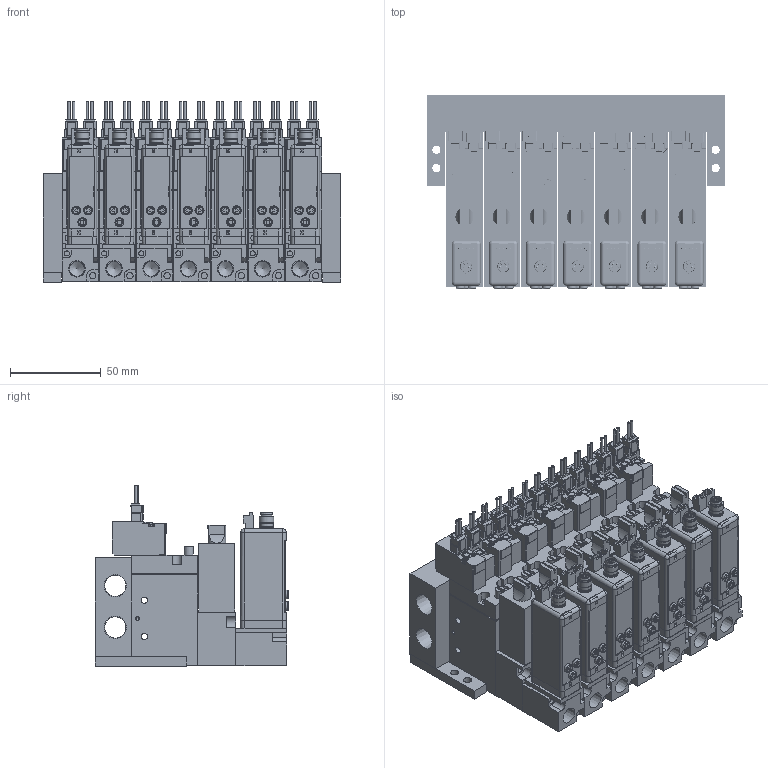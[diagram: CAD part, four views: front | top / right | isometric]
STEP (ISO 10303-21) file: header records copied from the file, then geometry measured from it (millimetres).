
FILE_DESCRIPTION(('STEP AP203'),'1');
FILE_NAME('BMPV32M2N20225AL707.stp','2025-06-16T08:57:32',(' '),(' '),'Spatial InterOp 3D',' ',' ');
FILE_SCHEMA(('CONFIG_CONTROL_DESIGN'));
Length unit declared in the file: millimetre
Products named in the file (88): BMPV32M2N20225AL707; MVS-202; ___-3(Rc); Filter Assy; __; _____; ___ ___; MB BRACKET; MB07; ___; upper plate-A; ______; ____; VACUUM VALVE FUNCTION MPV42-A; UV280-4E
Assembly tree (87 placements, depth 2):
  BMPV32M2N20225AL707
    MVS-202
    ___-3(Rc)
    Filter Assy
    __
    _____
    ___ ___
    MVS-202
    ___-3(Rc)
    Filter Assy
    __
    _____
    ___ ___
    MVS-202
    ___-3(Rc)
    Filter Assy
    __
    _____
    ___ ___
    MVS-202
    ___-3(Rc)
    Filter Assy
    __
    _____
    ___ ___
    MVS-202
    ___-3(Rc)
    Filter Assy
    __
    _____
    ___ ___
    MVS-202
    ___-3(Rc)
    Filter Assy
    __
    _____
    ___ ___
    MB BRACKET
    MB BRACKET
    MB07
    MVS-202
    ___-3(Rc)
    Filter Assy
    __
    _____
    ___ ___
    ___
    upper plate-A
    ______
    ____
    VACUUM VALVE FUNCTION MPV42-A
    ___
    upper plate-A
    ______
    ____
    VACUUM VALVE FUNCTION MPV42-A
    ___
    upper plate-A
    ______
    ____
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Bounding box: 164 x 106.6 x 99.75 mm (x, y, z)
Volume: 903960.2 mm3; surface area: 316604.6 mm2
Topology: 87 solids, 115 shells, 5528 faces, 14184 edges, 9290 vertices
Faces by surface type: plane 4522, cylinder 837, cone 120, sphere 28, torus 21
Full cylindrical faces by diameter (mm): 1 x28, 1.4 x28, 1.5 x7, 1.8 x14, 2 x14, 2.5 x18, 2.8 x28, 3 x28, 3.5 x74, 4 x7, 4.2 x7, 4.5 x32, 4.8 x21, 5 x21, 5.5 x7, 5.8 x14, 6 x7, 6.5 x27, 7 x7, 7.2 x7, 7.9 x7, 8 x14, 8.2 x7, 8.759 x7, 11.776 x2
Entity records: 166914 total; most frequent: CARTESIAN_POINT 29177, ORIENTED_EDGE 26820, DIRECTION 26614, EDGE_CURVE 13410, LINE 11214, VECTOR 11214, VERTEX_POINT 9171, AXIS2_PLACEMENT_3D 7700
